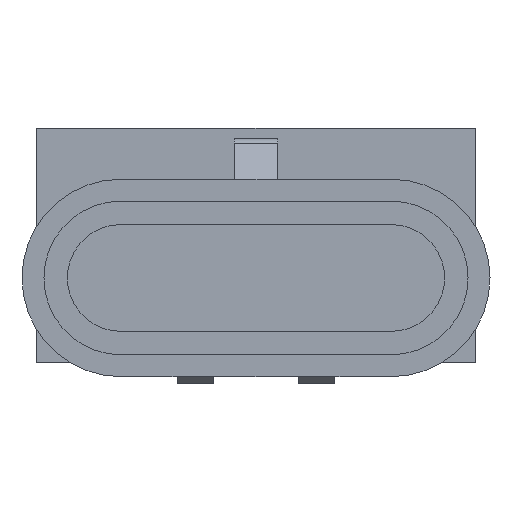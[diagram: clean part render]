
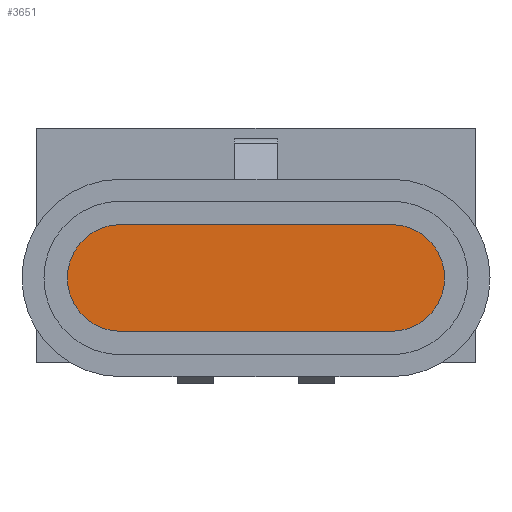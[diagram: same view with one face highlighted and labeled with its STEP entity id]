
A CAD part, front view. The second image highlights one B-rep face of the part: STEP entity #3651.
In plain terms, the highlighted planar face has unit normal (0, -1, 0) as drawn and (0, 0, -1) by its records, which use the part's own axes.
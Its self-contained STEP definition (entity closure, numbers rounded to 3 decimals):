
#157=LINE('',#5564,#496);
#161=LINE('',#5576,#500);
#496=VECTOR('',#4495,18.5);
#500=VECTOR('',#4507,18.5);
#762=PLANE('',#3917);
#944=FACE_OUTER_BOUND('',#1161,.T.);
#1161=EDGE_LOOP('',(#2618,#2619,#2620,#2621));
#1371=CIRCLE('',#3912,3.65);
#1373=CIRCLE('',#3916,3.65);
#1589=VERTEX_POINT('',#5561);
#1590=VERTEX_POINT('',#5563);
#1592=VERTEX_POINT('',#5569);
#1594=VERTEX_POINT('',#5575);
#1972=EDGE_CURVE('',#1590,#1589,#157,.T.);
#1975=EDGE_CURVE('',#1592,#1590,#1371,.T.);
#1978=EDGE_CURVE('',#1594,#1592,#161,.T.);
#1981=EDGE_CURVE('',#1589,#1594,#1373,.T.);
#2618=ORIENTED_EDGE('',*,*,#1975,.T.);
#2619=ORIENTED_EDGE('',*,*,#1972,.T.);
#2620=ORIENTED_EDGE('',*,*,#1981,.T.);
#2621=ORIENTED_EDGE('',*,*,#1978,.T.);
#3651=ADVANCED_FACE('',(#944),#762,.F.);
#3912=AXIS2_PLACEMENT_3D('',#5570,#4501,#4502);
#3916=AXIS2_PLACEMENT_3D('',#5580,#4513,#4514);
#3917=AXIS2_PLACEMENT_3D('',#5581,#4515,#4516);
#4495=DIRECTION('',(1.,0.,0.));
#4501=DIRECTION('center_axis',(0.,0.,-1.));
#4502=DIRECTION('ref_axis',(1.,0.,0.));
#4507=DIRECTION('',(-1.,0.,0.));
#4513=DIRECTION('center_axis',(0.,0.,-1.));
#4514=DIRECTION('ref_axis',(1.,0.,0.));
#4515=DIRECTION('center_axis',(0.,0.,1.));
#4516=DIRECTION('ref_axis',(1.,0.,0.));
#5561=CARTESIAN_POINT('',(9.25,-2.1,-60.5));
#5563=CARTESIAN_POINT('',(-9.25,-2.1,-60.5));
#5564=CARTESIAN_POINT('',(-9.25,-2.1,-60.5));
#5569=CARTESIAN_POINT('',(-9.25,-9.4,-60.5));
#5570=CARTESIAN_POINT('Origin',(-9.25,-5.75,-60.5));
#5575=CARTESIAN_POINT('',(9.25,-9.4,-60.5));
#5576=CARTESIAN_POINT('',(9.25,-9.4,-60.5));
#5580=CARTESIAN_POINT('Origin',(9.25,-5.75,-60.5));
#5581=CARTESIAN_POINT('Origin',(-9.25,-5.75,-60.5));
